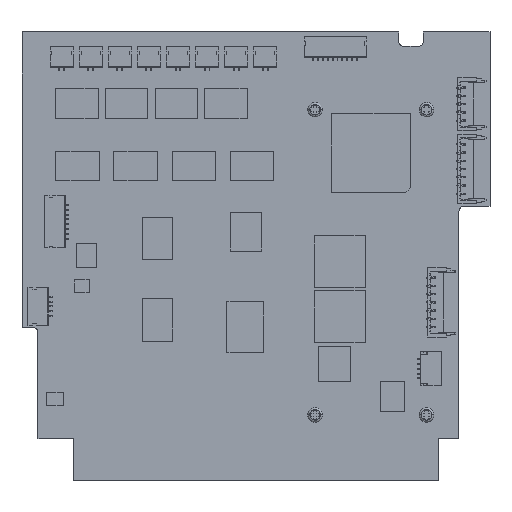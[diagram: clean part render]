
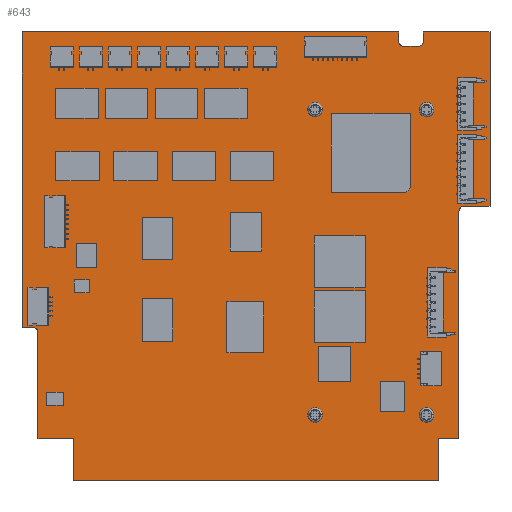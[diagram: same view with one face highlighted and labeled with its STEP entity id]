
A CAD part, top view. The second image highlights one B-rep face of the part: STEP entity #643.
In plain terms, the highlighted planar face has unit normal (0, 0, 1).
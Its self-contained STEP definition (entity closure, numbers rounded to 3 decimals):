
#114=CARTESIAN_POINT('',(83.6,76.45,1.6));
#115=DIRECTION('',(0.,0.,-1.));
#116=DIRECTION('',(-1.,0.,0.));
#117=AXIS2_PLACEMENT_3D('',#114,#115,#116);
#119=CARTESIAN_POINT('',(83.6,76.45,1.6));
#120=DIRECTION('',(0.,0.,-1.));
#121=DIRECTION('',(1.,0.,0.));
#122=AXIS2_PLACEMENT_3D('',#119,#120,#121);
#124=CARTESIAN_POINT('',(83.6,13.45,1.6));
#125=DIRECTION('',(0.,0.,-1.));
#126=DIRECTION('',(-1.,0.,0.));
#127=AXIS2_PLACEMENT_3D('',#124,#125,#126);
#129=CARTESIAN_POINT('',(83.6,13.45,1.6));
#130=DIRECTION('',(0.,0.,-1.));
#131=DIRECTION('',(1.,0.,0.));
#132=AXIS2_PLACEMENT_3D('',#129,#130,#131);
#134=CARTESIAN_POINT('',(60.6,76.45,1.6));
#135=DIRECTION('',(0.,0.,-1.));
#136=DIRECTION('',(-1.,0.,0.));
#137=AXIS2_PLACEMENT_3D('',#134,#135,#136);
#139=CARTESIAN_POINT('',(60.6,76.45,1.6));
#140=DIRECTION('',(0.,0.,-1.));
#141=DIRECTION('',(1.,0.,0.));
#142=AXIS2_PLACEMENT_3D('',#139,#140,#141);
#144=CARTESIAN_POINT('',(60.6,13.45,1.6));
#145=DIRECTION('',(0.,0.,-1.));
#146=DIRECTION('',(-1.,0.,0.));
#147=AXIS2_PLACEMENT_3D('',#144,#145,#146);
#149=CARTESIAN_POINT('',(60.6,13.45,1.6));
#150=DIRECTION('',(0.,0.,-1.));
#151=DIRECTION('',(1.,0.,0.));
#152=AXIS2_PLACEMENT_3D('',#149,#150,#151);
#154=DIRECTION('',(0.,-1.,0.));
#155=VECTOR('',#154,36.);
#156=CARTESIAN_POINT('',(96.7,92.5,1.6));
#157=LINE('',#156,#155);
#158=DIRECTION('',(-1.,0.,0.));
#159=VECTOR('',#158,5.4);
#160=CARTESIAN_POINT('',(96.7,56.5,1.6));
#161=LINE('',#160,#159);
#162=DIRECTION('',(0.,-1.,0.));
#163=VECTOR('',#162,47.);
#164=CARTESIAN_POINT('',(90.3,55.5,1.6));
#165=LINE('',#164,#163);
#166=DIRECTION('',(-1.,0.,0.));
#167=VECTOR('',#166,4.25);
#168=CARTESIAN_POINT('',(90.3,8.5,1.6));
#169=LINE('',#168,#167);
#170=DIRECTION('',(0.,1.,0.));
#171=VECTOR('',#170,8.5);
#172=CARTESIAN_POINT('',(86.05,0.,1.6));
#173=LINE('',#172,#171);
#174=DIRECTION('',(1.,0.,0.));
#175=VECTOR('',#174,75.3);
#176=CARTESIAN_POINT('',(10.75,0.,1.6));
#177=LINE('',#176,#175);
#178=DIRECTION('',(0.,1.,0.));
#179=VECTOR('',#178,8.5);
#180=CARTESIAN_POINT('',(10.75,0.,1.6));
#181=LINE('',#180,#179);
#182=DIRECTION('',(-1.,0.,0.));
#183=VECTOR('',#182,7.35);
#184=CARTESIAN_POINT('',(10.75,8.5,1.6));
#185=LINE('',#184,#183);
#186=DIRECTION('',(0.,1.,0.));
#187=VECTOR('',#186,22.);
#188=CARTESIAN_POINT('',(3.4,8.5,1.6));
#189=LINE('',#188,#187);
#190=DIRECTION('',(1.,0.,0.));
#191=VECTOR('',#190,2.3);
#192=CARTESIAN_POINT('',(0.1,31.5,1.6));
#193=LINE('',#192,#191);
#194=DIRECTION('',(0.,-1.,0.));
#195=VECTOR('',#194,61.);
#196=CARTESIAN_POINT('',(0.1,92.5,1.6));
#197=LINE('',#196,#195);
#198=DIRECTION('',(-1.,0.,0.));
#199=VECTOR('',#198,77.8);
#200=CARTESIAN_POINT('',(77.9,92.5,1.6));
#201=LINE('',#200,#199);
#202=DIRECTION('',(0.,-1.,0.));
#203=VECTOR('',#202,2.);
#204=CARTESIAN_POINT('',(77.9,92.5,1.6));
#205=LINE('',#204,#203);
#206=DIRECTION('',(1.,0.,0.));
#207=VECTOR('',#206,3.);
#208=CARTESIAN_POINT('',(78.9,89.5,1.6));
#209=LINE('',#208,#207);
#210=DIRECTION('',(0.,-1.,0.));
#211=VECTOR('',#210,2.);
#212=CARTESIAN_POINT('',(82.9,92.5,1.6));
#213=LINE('',#212,#211);
#214=DIRECTION('',(-1.,0.,0.));
#215=VECTOR('',#214,13.8);
#216=CARTESIAN_POINT('',(96.7,92.5,1.6));
#217=LINE('',#216,#215);
#250=CARTESIAN_POINT('',(91.3,55.5,1.6));
#251=DIRECTION('',(0.,0.,-1.));
#252=DIRECTION('',(-1.,0.,0.));
#253=AXIS2_PLACEMENT_3D('',#250,#251,#252);
#292=CARTESIAN_POINT('',(2.4,30.5,1.6));
#293=DIRECTION('',(0.,0.,-1.));
#294=DIRECTION('',(0.,1.,0.));
#295=AXIS2_PLACEMENT_3D('',#292,#293,#294);
#330=CARTESIAN_POINT('',(78.9,90.5,1.6));
#331=DIRECTION('',(0.,0.,-1.));
#332=DIRECTION('',(0.,-1.,0.));
#333=AXIS2_PLACEMENT_3D('',#330,#331,#332);
#348=CARTESIAN_POINT('',(81.9,90.5,1.6));
#349=DIRECTION('',(0.,0.,-1.));
#350=DIRECTION('',(1.,0.,0.));
#351=AXIS2_PLACEMENT_3D('',#348,#349,#350);
#374=CARTESIAN_POINT('',(10.75,0.,1.6));
#375=CARTESIAN_POINT('',(10.75,8.5,1.6));
#376=VERTEX_POINT('',#374);
#377=VERTEX_POINT('',#375);
#378=CARTESIAN_POINT('',(3.4,8.5,1.6));
#379=VERTEX_POINT('',#378);
#380=CARTESIAN_POINT('',(90.3,8.5,1.6));
#381=CARTESIAN_POINT('',(86.05,8.5,1.6));
#382=VERTEX_POINT('',#380);
#383=VERTEX_POINT('',#381);
#384=CARTESIAN_POINT('',(86.05,0.,1.6));
#385=VERTEX_POINT('',#384);
#387=CARTESIAN_POINT('',(77.9,92.5,1.6));
#389=VERTEX_POINT('',#387);
#391=CARTESIAN_POINT('',(82.9,92.5,1.6));
#393=VERTEX_POINT('',#391);
#398=CARTESIAN_POINT('',(82.5,76.45,1.6));
#399=CARTESIAN_POINT('',(84.7,76.45,1.6));
#400=VERTEX_POINT('',#398);
#401=VERTEX_POINT('',#399);
#406=CARTESIAN_POINT('',(82.5,13.45,1.6));
#407=CARTESIAN_POINT('',(84.7,13.45,1.6));
#408=VERTEX_POINT('',#406);
#409=VERTEX_POINT('',#407);
#414=CARTESIAN_POINT('',(59.5,76.45,1.6));
#415=CARTESIAN_POINT('',(61.7,76.45,1.6));
#416=VERTEX_POINT('',#414);
#417=VERTEX_POINT('',#415);
#422=CARTESIAN_POINT('',(59.5,13.45,1.6));
#423=CARTESIAN_POINT('',(61.7,13.45,1.6));
#424=VERTEX_POINT('',#422);
#425=VERTEX_POINT('',#423);
#426=CARTESIAN_POINT('',(82.9,90.5,1.6));
#428=VERTEX_POINT('',#426);
#430=CARTESIAN_POINT('',(81.9,89.5,1.6));
#432=VERTEX_POINT('',#430);
#434=CARTESIAN_POINT('',(78.9,89.5,1.6));
#436=VERTEX_POINT('',#434);
#438=CARTESIAN_POINT('',(77.9,90.5,1.6));
#440=VERTEX_POINT('',#438);
#442=CARTESIAN_POINT('',(90.3,55.5,1.6));
#444=VERTEX_POINT('',#442);
#446=CARTESIAN_POINT('',(91.3,56.5,1.6));
#448=VERTEX_POINT('',#446);
#450=CARTESIAN_POINT('',(2.4,31.5,1.6));
#452=VERTEX_POINT('',#450);
#454=CARTESIAN_POINT('',(3.4,30.5,1.6));
#456=VERTEX_POINT('',#454);
#462=CARTESIAN_POINT('',(0.1,92.5,1.6));
#463=CARTESIAN_POINT('',(0.1,31.5,1.6));
#464=VERTEX_POINT('',#462);
#465=VERTEX_POINT('',#463);
#470=CARTESIAN_POINT('',(96.7,92.5,1.6));
#471=CARTESIAN_POINT('',(96.7,56.5,1.6));
#472=VERTEX_POINT('',#470);
#473=VERTEX_POINT('',#471);
#574=CARTESIAN_POINT('',(0.,0.,1.6));
#575=DIRECTION('',(0.,0.,1.));
#576=DIRECTION('',(1.,0.,0.));
#577=AXIS2_PLACEMENT_3D('',#574,#575,#576);
#578=PLANE('',#577);
#580=ORIENTED_EDGE('',*,*,#579,.T.);
#582=ORIENTED_EDGE('',*,*,#581,.T.);
#584=ORIENTED_EDGE('',*,*,#583,.F.);
#586=ORIENTED_EDGE('',*,*,#585,.T.);
#588=ORIENTED_EDGE('',*,*,#587,.T.);
#590=ORIENTED_EDGE('',*,*,#589,.F.);
#592=ORIENTED_EDGE('',*,*,#591,.F.);
#594=ORIENTED_EDGE('',*,*,#593,.T.);
#596=ORIENTED_EDGE('',*,*,#595,.T.);
#598=ORIENTED_EDGE('',*,*,#597,.T.);
#600=ORIENTED_EDGE('',*,*,#599,.F.);
#602=ORIENTED_EDGE('',*,*,#601,.F.);
#604=ORIENTED_EDGE('',*,*,#603,.F.);
#606=ORIENTED_EDGE('',*,*,#605,.F.);
#608=ORIENTED_EDGE('',*,*,#607,.T.);
#610=ORIENTED_EDGE('',*,*,#609,.F.);
#612=ORIENTED_EDGE('',*,*,#611,.T.);
#614=ORIENTED_EDGE('',*,*,#613,.F.);
#616=ORIENTED_EDGE('',*,*,#615,.F.);
#618=ORIENTED_EDGE('',*,*,#617,.F.);
#619=EDGE_LOOP('',(#580,#582,#584,#586,#588,#590,#592,#594,#596,#598,#600,#602,
#604,#606,#608,#610,#612,#614,#616,#618));
#620=FACE_OUTER_BOUND('',#619,.F.);
#622=ORIENTED_EDGE('',*,*,#621,.F.);
#624=ORIENTED_EDGE('',*,*,#623,.F.);
#625=EDGE_LOOP('',(#622,#624));
#626=FACE_BOUND('',#625,.F.);
#628=ORIENTED_EDGE('',*,*,#627,.F.);
#630=ORIENTED_EDGE('',*,*,#629,.F.);
#631=EDGE_LOOP('',(#628,#630));
#632=FACE_BOUND('',#631,.F.);
#634=ORIENTED_EDGE('',*,*,#633,.F.);
#636=ORIENTED_EDGE('',*,*,#635,.F.);
#637=EDGE_LOOP('',(#634,#636));
#638=FACE_BOUND('',#637,.F.);
#639=ORIENTED_EDGE('',*,*,#554,.F.);
#640=ORIENTED_EDGE('',*,*,#568,.F.);
#641=EDGE_LOOP('',(#639,#640));
#642=FACE_BOUND('',#641,.F.);
#643=ADVANCED_FACE('',(#620,#626,#632,#638,#642),#578,.T.);
#118=CIRCLE('',#117,1.1);
#123=CIRCLE('',#122,1.1);
#128=CIRCLE('',#127,1.1);
#133=CIRCLE('',#132,1.1);
#138=CIRCLE('',#137,1.1);
#143=CIRCLE('',#142,1.1);
#148=CIRCLE('',#147,1.1);
#153=CIRCLE('',#152,1.1);
#254=CIRCLE('',#253,1.);
#296=CIRCLE('',#295,1.);
#334=CIRCLE('',#333,1.);
#352=CIRCLE('',#351,1.);
#554=EDGE_CURVE('',#400,#401,#118,.T.);
#568=EDGE_CURVE('',#401,#400,#123,.T.);
#579=EDGE_CURVE('',#472,#473,#157,.T.);
#581=EDGE_CURVE('',#473,#448,#161,.T.);
#583=EDGE_CURVE('',#444,#448,#254,.T.);
#585=EDGE_CURVE('',#444,#382,#165,.T.);
#587=EDGE_CURVE('',#382,#383,#169,.T.);
#589=EDGE_CURVE('',#385,#383,#173,.T.);
#591=EDGE_CURVE('',#376,#385,#177,.T.);
#593=EDGE_CURVE('',#376,#377,#181,.T.);
#595=EDGE_CURVE('',#377,#379,#185,.T.);
#597=EDGE_CURVE('',#379,#456,#189,.T.);
#599=EDGE_CURVE('',#452,#456,#296,.T.);
#601=EDGE_CURVE('',#465,#452,#193,.T.);
#603=EDGE_CURVE('',#464,#465,#197,.T.);
#605=EDGE_CURVE('',#389,#464,#201,.T.);
#607=EDGE_CURVE('',#389,#440,#205,.T.);
#609=EDGE_CURVE('',#436,#440,#334,.T.);
#611=EDGE_CURVE('',#436,#432,#209,.T.);
#613=EDGE_CURVE('',#428,#432,#352,.T.);
#615=EDGE_CURVE('',#393,#428,#213,.T.);
#617=EDGE_CURVE('',#472,#393,#217,.T.);
#621=EDGE_CURVE('',#408,#409,#128,.T.);
#623=EDGE_CURVE('',#409,#408,#133,.T.);
#627=EDGE_CURVE('',#416,#417,#138,.T.);
#629=EDGE_CURVE('',#417,#416,#143,.T.);
#633=EDGE_CURVE('',#424,#425,#148,.T.);
#635=EDGE_CURVE('',#425,#424,#153,.T.);
